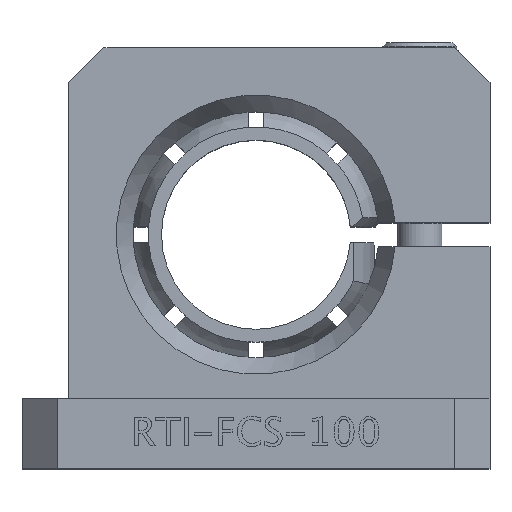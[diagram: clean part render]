
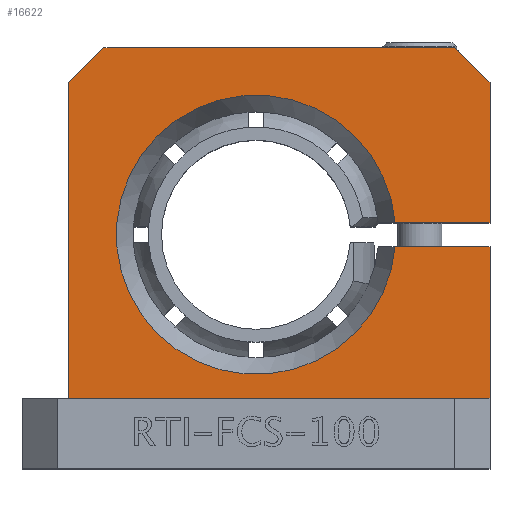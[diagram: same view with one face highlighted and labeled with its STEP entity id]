
A CAD part, top view. The second image highlights one B-rep face of the part: STEP entity #16622.
In plain terms, the highlighted planar face has unit normal (0, 0, 1).
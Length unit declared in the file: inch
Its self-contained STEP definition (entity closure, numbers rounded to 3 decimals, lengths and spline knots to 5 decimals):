
#603 = CARTESIAN_POINT ( 'NONE',  ( -1., 2.062, 0.375 ) ) ;
#619 = CARTESIAN_POINT ( 'NONE',  ( -0.812, 2.25, 0.375 ) ) ;
#629 = CARTESIAN_POINT ( 'NONE',  ( 1.062, 2.25, 0.375 ) ) ;
#636 = CARTESIAN_POINT ( 'NONE',  ( 0.74334, 1.313, 0.375 ) ) ;
#652 = CARTESIAN_POINT ( 'NONE',  ( 0.74334, 1.187, 0.375 ) ) ;
#3464 = LINE ( 'NONE', #4626, #3465 ) ;
#3465 = VECTOR ( 'NONE', #4625, 39.37008 ) ;
#3491 = LINE ( 'NONE', #3621, #3492 ) ;
#3492 = VECTOR ( 'NONE', #3666, 39.37008 ) ;
#3621 = CARTESIAN_POINT ( 'NONE',  ( -1., 2.25, 0.375 ) ) ;
#3666 = DIRECTION ( 'NONE',  ( 0., -1., 0. ) ) ;
#4021 = EDGE_LOOP ( 'NONE', ( #12031, #12033, #12034, #12035, #12036, #12038, #12039, #12040, #12041, #12043 ) ) ;
#4147 = AXIS2_PLACEMENT_3D ( 'NONE', #23099, #23096, #23093 ) ;
#4625 = DIRECTION ( 'NONE',  ( 0., -1., 0. ) ) ;
#4626 = CARTESIAN_POINT ( 'NONE',  ( 1.25, 2.25, 0.375 ) ) ;
#5690 = DIRECTION ( 'NONE',  ( 1., 0., 0. ) ) ;
#5691 = CARTESIAN_POINT ( 'NONE',  ( -1., 0.375, 0.375 ) ) ;
#6226 = VERTEX_POINT ( 'NONE', #652 ) ;
#6240 = VERTEX_POINT ( 'NONE', #636 ) ;
#6246 = VERTEX_POINT ( 'NONE', #629 ) ;
#6253 = VERTEX_POINT ( 'NONE', #619 ) ;
#6269 = VERTEX_POINT ( 'NONE', #603 ) ;
#8063 = EDGE_CURVE ( 'NONE', #16350, #6246, #12882, .T. ) ;
#8064 = EDGE_CURVE ( 'NONE', #6253, #6246, #12885, .T. ) ;
#8065 = EDGE_CURVE ( 'NONE', #6253, #6269, #12887, .T. ) ;
#8066 = EDGE_CURVE ( 'NONE', #6226, #16347, #12889, .T. ) ;
#8067 = EDGE_CURVE ( 'NONE', #6226, #6240, #12892, .T. ) ;
#8068 = EDGE_CURVE ( 'NONE', #16341, #6240, #12891, .T. ) ;
#8134 = EDGE_CURVE ( 'NONE', #16350, #16341, #16953, .T. ) ;
#8985 = AXIS2_PLACEMENT_3D ( 'NONE', #20035, #20034, #20033 ) ;
#9405 = FACE_OUTER_BOUND ( 'NONE', #4021, .T. ) ;
#10010 = EDGE_CURVE ( 'NONE', #16333, #16315, #23937, .T. ) ;
#12031 = ORIENTED_EDGE ( 'NONE', *, *, #8134, .F. ) ;
#12033 = ORIENTED_EDGE ( 'NONE', *, *, #8063, .T. ) ;
#12034 = ORIENTED_EDGE ( 'NONE', *, *, #8064, .F. ) ;
#12035 = ORIENTED_EDGE ( 'NONE', *, *, #8065, .T. ) ;
#12036 = ORIENTED_EDGE ( 'NONE', *, *, #12528, .T. ) ;
#12038 = ORIENTED_EDGE ( 'NONE', *, *, #10010, .T. ) ;
#12039 = ORIENTED_EDGE ( 'NONE', *, *, #12512, .F. ) ;
#12040 = ORIENTED_EDGE ( 'NONE', *, *, #8066, .F. ) ;
#12041 = ORIENTED_EDGE ( 'NONE', *, *, #8067, .T. ) ;
#12043 = ORIENTED_EDGE ( 'NONE', *, *, #8068, .F. ) ;
#12512 = EDGE_CURVE ( 'NONE', #16347, #16315, #3464, .T. ) ;
#12528 = EDGE_CURVE ( 'NONE', #6269, #16333, #3491, .T. ) ;
#12882 = LINE ( 'NONE', #23163, #12884 ) ;
#12884 = VECTOR ( 'NONE', #23159, 39.37008 ) ;
#12885 = LINE ( 'NONE', #23136, #12886 ) ;
#12886 = VECTOR ( 'NONE', #23124, 39.37008 ) ;
#12887 = LINE ( 'NONE', #23116, #12888 ) ;
#12888 = VECTOR ( 'NONE', #23113, 39.37008 ) ;
#12889 = LINE ( 'NONE', #23107, #12890 ) ;
#12890 = VECTOR ( 'NONE', #23104, 39.37008 ) ;
#12891 = LINE ( 'NONE', #23087, #12893 ) ;
#12892 = CIRCLE ( 'NONE', #4147, 0.746 ) ;
#12893 = VECTOR ( 'NONE', #23084, 39.37008 ) ;
#16315 = VERTEX_POINT ( 'NONE', #20267 ) ;
#16333 = VERTEX_POINT ( 'NONE', #20249 ) ;
#16341 = VERTEX_POINT ( 'NONE', #20241 ) ;
#16347 = VERTEX_POINT ( 'NONE', #20233 ) ;
#16350 = VERTEX_POINT ( 'NONE', #20230 ) ;
#16622 = ADVANCED_FACE ( 'NONE', ( #9405 ), #20036, .F. ) ;
#16953 = LINE ( 'NONE', #23413, #16954 ) ;
#16954 = VECTOR ( 'NONE', #23412, 39.37008 ) ;
#20033 = DIRECTION ( 'NONE',  ( -1., 0., 0. ) ) ;
#20034 = DIRECTION ( 'NONE',  ( 0., 0., -1. ) ) ;
#20035 = CARTESIAN_POINT ( 'NONE',  ( -1., 2.25, 0.375 ) ) ;
#20036 = PLANE ( 'NONE',  #8985 ) ;
#20230 = CARTESIAN_POINT ( 'NONE',  ( 1.25, 2.062, 0.375 ) ) ;
#20233 = CARTESIAN_POINT ( 'NONE',  ( 1.25, 1.187, 0.375 ) ) ;
#20241 = CARTESIAN_POINT ( 'NONE',  ( 1.25, 1.313, 0.375 ) ) ;
#20249 = CARTESIAN_POINT ( 'NONE',  ( -1., 0.375, 0.375 ) ) ;
#20267 = CARTESIAN_POINT ( 'NONE',  ( 1.25, 0.375, 0.375 ) ) ;
#23084 = DIRECTION ( 'NONE',  ( -1., 0., 0. ) ) ;
#23087 = CARTESIAN_POINT ( 'NONE',  ( 0.29371, 1.313, 0.375 ) ) ;
#23093 = DIRECTION ( 'NONE',  ( -1., 0., 0. ) ) ;
#23096 = DIRECTION ( 'NONE',  ( 0., 0., -1. ) ) ;
#23099 = CARTESIAN_POINT ( 'NONE',  ( 0., 1.25, 0.375 ) ) ;
#23104 = DIRECTION ( 'NONE',  ( 1., 0., 0. ) ) ;
#23107 = CARTESIAN_POINT ( 'NONE',  ( 0.29371, 1.187, 0.375 ) ) ;
#23113 = DIRECTION ( 'NONE',  ( -0.707, -0.707, 0. ) ) ;
#23116 = CARTESIAN_POINT ( 'NONE',  ( -0.812, 2.25, 0.375 ) ) ;
#23124 = DIRECTION ( 'NONE',  ( 1., 0., 0. ) ) ;
#23136 = CARTESIAN_POINT ( 'NONE',  ( -1., 2.25, 0.375 ) ) ;
#23159 = DIRECTION ( 'NONE',  ( -0.707, 0.707, 0. ) ) ;
#23163 = CARTESIAN_POINT ( 'NONE',  ( 1.062, 2.25, 0.375 ) ) ;
#23412 = DIRECTION ( 'NONE',  ( 0., -1., 0. ) ) ;
#23413 = CARTESIAN_POINT ( 'NONE',  ( 1.25, 2.25, 0.375 ) ) ;
#23937 = LINE ( 'NONE', #5691, #23938 ) ;
#23938 = VECTOR ( 'NONE', #5690, 39.37008 ) ;
